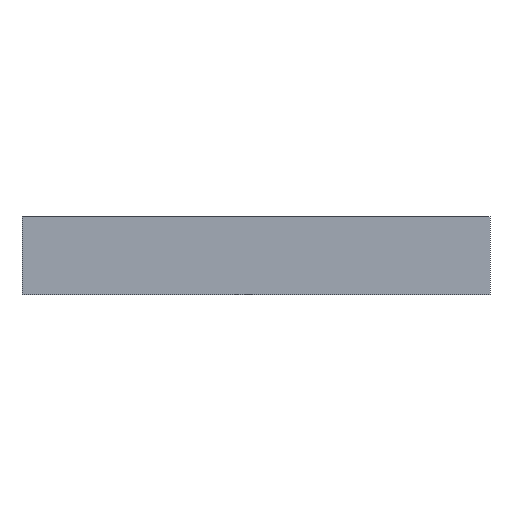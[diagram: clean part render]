
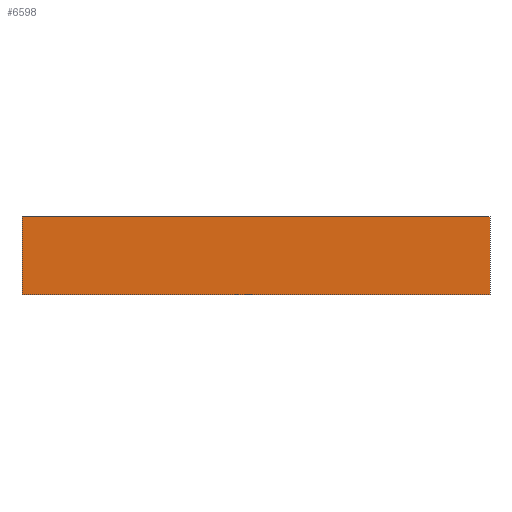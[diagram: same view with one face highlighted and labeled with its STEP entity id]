
A CAD part, front view. The second image highlights one B-rep face of the part: STEP entity #6598.
In plain terms, the highlighted planar face has unit normal (0, -1, 0).
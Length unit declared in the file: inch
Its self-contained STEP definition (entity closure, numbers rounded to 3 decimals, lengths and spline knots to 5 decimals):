
#542 = PLANE ( 'NONE',  #679 ) ;
#597 = FACE_OUTER_BOUND ( 'NONE', #6497, .T. ) ;
#664 = DIRECTION ( 'NONE',  ( -1., 0., 0. ) ) ;
#665 = DIRECTION ( 'NONE',  ( 0., 1., 0. ) ) ;
#666 = CARTESIAN_POINT ( 'NONE',  ( 0., 0., 0.25 ) ) ;
#679 = AXIS2_PLACEMENT_3D ( 'NONE', #666, #665, #664 ) ;
#715 = DIRECTION ( 'NONE',  ( 1., 0., 0. ) ) ;
#716 = VECTOR ( 'NONE', #715, 39.37008 ) ;
#717 = CARTESIAN_POINT ( 'NONE',  ( 0., 0., 0. ) ) ;
#718 = LINE ( 'NONE', #717, #716 ) ;
#724 = CARTESIAN_POINT ( 'NONE',  ( -1.5, 0., 0. ) ) ;
#732 = CARTESIAN_POINT ( 'NONE',  ( 0., 0., 0. ) ) ;
#904 = DIRECTION ( 'NONE',  ( 1., 0., 0. ) ) ;
#905 = VECTOR ( 'NONE', #904, 39.37008 ) ;
#910 = CARTESIAN_POINT ( 'NONE',  ( 0., 0., 0.25 ) ) ;
#911 = LINE ( 'NONE', #910, #905 ) ;
#5178 = DIRECTION ( 'NONE',  ( 0., 0., -1. ) ) ;
#5179 = VECTOR ( 'NONE', #5178, 39.37008 ) ;
#5180 = CARTESIAN_POINT ( 'NONE',  ( -1.5, 0., 0.25 ) ) ;
#5183 = DIRECTION ( 'NONE',  ( 0., 0., -1. ) ) ;
#5184 = VECTOR ( 'NONE', #5183, 39.37008 ) ;
#5185 = CARTESIAN_POINT ( 'NONE',  ( 0., 0., 0.25 ) ) ;
#5186 = LINE ( 'NONE', #5185, #5184 ) ;
#5198 = LINE ( 'NONE', #5180, #5179 ) ;
#6241 = VERTEX_POINT ( 'NONE', #10569 ) ;
#6338 = VERTEX_POINT ( 'NONE', #10768 ) ;
#6493 = EDGE_CURVE ( 'NONE', #6338, #6720, #5186, .T. ) ;
#6496 = EDGE_CURVE ( 'NONE', #6241, #6728, #5198, .T. ) ;
#6497 = EDGE_LOOP ( 'NONE', ( #6599, #6693, #6713, #6700 ) ) ;
#6598 = ADVANCED_FACE ( 'NONE', ( #597 ), #542, .F. ) ;
#6599 = ORIENTED_EDGE ( 'NONE', *, *, #6731, .T. ) ;
#6691 = EDGE_CURVE ( 'NONE', #6241, #6338, #911, .T. ) ;
#6693 = ORIENTED_EDGE ( 'NONE', *, *, #6493, .F. ) ;
#6700 = ORIENTED_EDGE ( 'NONE', *, *, #6496, .T. ) ;
#6713 = ORIENTED_EDGE ( 'NONE', *, *, #6691, .F. ) ;
#6720 = VERTEX_POINT ( 'NONE', #732 ) ;
#6728 = VERTEX_POINT ( 'NONE', #724 ) ;
#6731 = EDGE_CURVE ( 'NONE', #6728, #6720, #718, .T. ) ;
#10569 = CARTESIAN_POINT ( 'NONE',  ( -1.5, 0., 0.25 ) ) ;
#10768 = CARTESIAN_POINT ( 'NONE',  ( 0., 0., 0.25 ) ) ;
